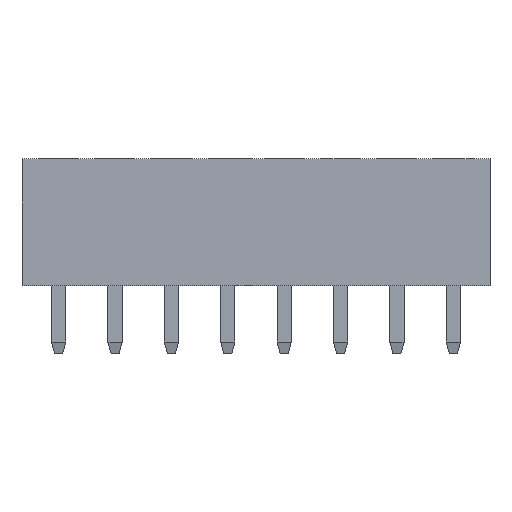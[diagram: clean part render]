
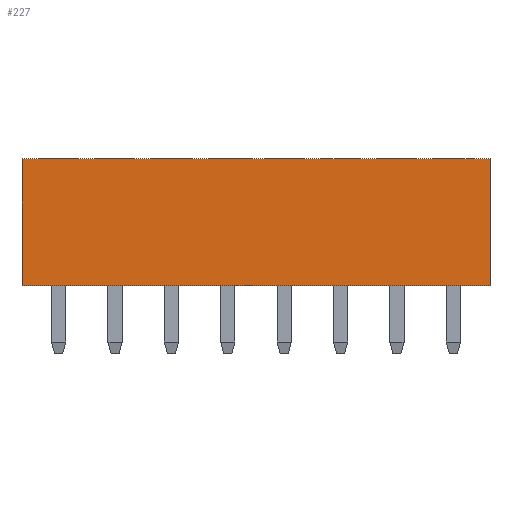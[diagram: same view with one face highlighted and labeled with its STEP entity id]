
A CAD part, top view. The second image highlights one B-rep face of the part: STEP entity #227.
In plain terms, the highlighted planar face has unit normal (0, 0, 1).
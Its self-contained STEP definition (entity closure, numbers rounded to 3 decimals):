
#147 = EDGE_CURVE ( 'NONE', #229, #148, #1741, .T. ) ;
#148 = VERTEX_POINT ( 'NONE', #1737 ) ;
#149 = ORIENTED_EDGE ( 'NONE', *, *, #150, .F. ) ;
#150 = EDGE_CURVE ( 'NONE', #151, #148, #1736, .T. ) ;
#151 = VERTEX_POINT ( 'NONE', #1732 ) ;
#152 = ORIENTED_EDGE ( 'NONE', *, *, #153, .F. ) ;
#153 = EDGE_CURVE ( 'NONE', #154, #151, #1731, .T. ) ;
#154 = VERTEX_POINT ( 'NONE', #1727 ) ;
#155 = ORIENTED_EDGE ( 'NONE', *, *, #212, .T. ) ;
#212 = EDGE_CURVE ( 'NONE', #154, #229, #1819, .T. ) ;
#227 = ADVANCED_FACE ( 'NONE', ( #1897 ), #1896, .F. ) ;
#228 = EDGE_LOOP ( 'NONE', ( #230, #149, #152, #155 ) ) ;
#229 = VERTEX_POINT ( 'NONE', #1891 ) ;
#230 = ORIENTED_EDGE ( 'NONE', *, *, #147, .T. ) ;
#1727 = CARTESIAN_POINT ( 'NONE',  ( -15.3, 4.5, 1.2 ) ) ;
#1728 = DIRECTION ( 'NONE',  ( 1., 0., 0. ) ) ;
#1729 = VECTOR ( 'NONE', #1728, 1000. ) ;
#1730 = CARTESIAN_POINT ( 'NONE',  ( -1.3, 4.5, 1.2 ) ) ;
#1731 = LINE ( 'NONE', #1730, #1729 ) ;
#1732 = CARTESIAN_POINT ( 'NONE',  ( 1.3, 4.5, 1.2 ) ) ;
#1733 = DIRECTION ( 'NONE',  ( 0., -1., 0. ) ) ;
#1734 = VECTOR ( 'NONE', #1733, 1000. ) ;
#1735 = CARTESIAN_POINT ( 'NONE',  ( 1.3, 4.5, 1.2 ) ) ;
#1736 = LINE ( 'NONE', #1735, #1734 ) ;
#1737 = CARTESIAN_POINT ( 'NONE',  ( 1.3, 0., 1.2 ) ) ;
#1738 = DIRECTION ( 'NONE',  ( 1., 0., 0. ) ) ;
#1739 = VECTOR ( 'NONE', #1738, 1000. ) ;
#1740 = CARTESIAN_POINT ( 'NONE',  ( -1.3, 0., 1.2 ) ) ;
#1741 = LINE ( 'NONE', #1740, #1739 ) ;
#1816 = DIRECTION ( 'NONE',  ( 0., -1., 0. ) ) ;
#1817 = VECTOR ( 'NONE', #1816, 1000. ) ;
#1818 = CARTESIAN_POINT ( 'NONE',  ( -15.3, 4.5, 1.2 ) ) ;
#1819 = LINE ( 'NONE', #1818, #1817 ) ;
#1891 = CARTESIAN_POINT ( 'NONE',  ( -15.3, 0., 1.2 ) ) ;
#1892 = DIRECTION ( 'NONE',  ( -1., 0., 0. ) ) ;
#1893 = DIRECTION ( 'NONE',  ( 0., 0., -1. ) ) ;
#1894 = CARTESIAN_POINT ( 'NONE',  ( -1.3, 4.5, 1.2 ) ) ;
#1895 = AXIS2_PLACEMENT_3D ( 'NONE', #1894, #1893, #1892 ) ;
#1896 = PLANE ( 'NONE',  #1895 ) ;
#1897 = FACE_OUTER_BOUND ( 'NONE', #228, .T. ) ;
